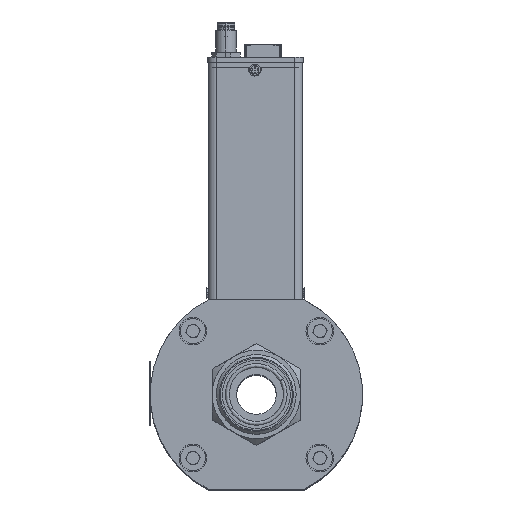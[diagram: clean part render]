
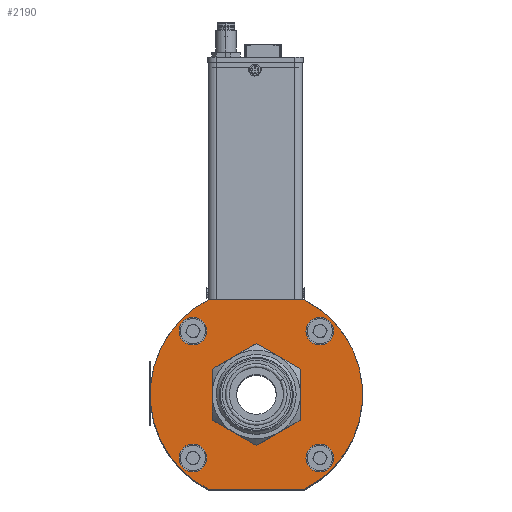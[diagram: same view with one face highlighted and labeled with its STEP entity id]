
A CAD part, top view. The second image highlights one B-rep face of the part: STEP entity #2190.
In plain terms, the highlighted planar face has unit normal (0, 0, 1).
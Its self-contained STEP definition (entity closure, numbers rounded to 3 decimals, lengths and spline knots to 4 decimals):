
#170 = ORIENTED_EDGE ( 'NONE', *, *, #10414, .T. ) ;
#992 = DIRECTION ( 'NONE',  ( 0., -1., 0. ) ) ;
#2164 = CARTESIAN_POINT ( 'NONE',  ( 0.0135, 0.8948, 0. ) ) ;
#2190 = ADVANCED_FACE ( 'NONE', ( #84334, #70914, #5049, #51882, #18500, #76977 ), #31450, .T. ) ;
#2309 = EDGE_CURVE ( 'NONE', #55389, #78996, #23865, .T. ) ;
#2507 = VERTEX_POINT ( 'NONE', #55711 ) ;
#3678 = CARTESIAN_POINT ( 'NONE',  ( 0.0135, 2.0444, 0. ) ) ;
#3734 = CIRCLE ( 'NONE', #52184, 0.5748 ) ;
#4625 = EDGE_LOOP ( 'NONE', ( #30481, #18380, #7725, #64608 ) ) ;
#4999 = AXIS2_PLACEMENT_3D ( 'NONE', #21944, #21509, #15449 ) ;
#5049 = FACE_BOUND ( 'NONE', #56756, .T. ) ;
#5235 = DIRECTION ( 'NONE',  ( 0., 0., -1. ) ) ;
#5251 = AXIS2_PLACEMENT_3D ( 'NONE', #40335, #27321, #54627 ) ;
#6642 = CARTESIAN_POINT ( 'NONE',  ( 1.0018, 2.4579, 0. ) ) ;
#7584 = CARTESIAN_POINT ( 'NONE',  ( 1.0018, 0.4813, 0. ) ) ;
#7725 = ORIENTED_EDGE ( 'NONE', *, *, #66474, .T. ) ;
#9186 = DIRECTION ( 'NONE',  ( 0., 1., 0. ) ) ;
#10414 = EDGE_CURVE ( 'NONE', #78996, #55389, #31902, .T. ) ;
#10735 = CARTESIAN_POINT ( 'NONE',  ( 0.7659, -0.0029, 0. ) ) ;
#12249 = ORIENTED_EDGE ( 'NONE', *, *, #41170, .T. ) ;
#13146 = CARTESIAN_POINT ( 'NONE',  ( 0.0135, 2.942, 0. ) ) ;
#13282 = AXIS2_PLACEMENT_3D ( 'NONE', #42993, #23052, #9186 ) ;
#13965 = ORIENTED_EDGE ( 'NONE', *, *, #34665, .T. ) ;
#13970 = ORIENTED_EDGE ( 'NONE', *, *, #44177, .T. ) ;
#13982 = AXIS2_PLACEMENT_3D ( 'NONE', #7584, #54382, #15367 ) ;
#14418 = CARTESIAN_POINT ( 'NONE',  ( 0.7659, 2.942, 0. ) ) ;
#14965 = CIRCLE ( 'NONE', #5251, 0.2165 ) ;
#15245 = ORIENTED_EDGE ( 'NONE', *, *, #55723, .T. ) ;
#15367 = DIRECTION ( 'NONE',  ( 0., -1., 0. ) ) ;
#15449 = DIRECTION ( 'NONE',  ( 0., -1., 0. ) ) ;
#16929 = VERTEX_POINT ( 'NONE', #29988 ) ;
#18380 = ORIENTED_EDGE ( 'NONE', *, *, #53472, .T. ) ;
#18500 = FACE_BOUND ( 'NONE', #35439, .T. ) ;
#18952 = CARTESIAN_POINT ( 'NONE',  ( -0.7389, -0.0029, 0. ) ) ;
#19277 = VERTEX_POINT ( 'NONE', #2164 ) ;
#19893 = AXIS2_PLACEMENT_3D ( 'NONE', #22715, #82052, #69886 ) ;
#20001 = EDGE_CURVE ( 'NONE', #39640, #30969, #62731, .T. ) ;
#20819 = CARTESIAN_POINT ( 'NONE',  ( 0.0135, 1.4696, 0. ) ) ;
#21066 = EDGE_LOOP ( 'NONE', ( #80124, #26624 ) ) ;
#21072 = VERTEX_POINT ( 'NONE', #14418 ) ;
#21509 = DIRECTION ( 'NONE',  ( 0., 0., -1. ) ) ;
#21944 = CARTESIAN_POINT ( 'NONE',  ( -0.9748, 2.4579, 0. ) ) ;
#22618 = CARTESIAN_POINT ( 'NONE',  ( -0.9748, 2.4579, 0. ) ) ;
#22715 = CARTESIAN_POINT ( 'NONE',  ( 1.0018, 0.4813, 0. ) ) ;
#23023 = DIRECTION ( 'NONE',  ( 0., 0., 1. ) ) ;
#23052 = DIRECTION ( 'NONE',  ( 0., 0., 1. ) ) ;
#23524 = VERTEX_POINT ( 'NONE', #66215 ) ;
#23865 = CIRCLE ( 'NONE', #36095, 0.2165 ) ;
#26624 = ORIENTED_EDGE ( 'NONE', *, *, #20001, .T. ) ;
#26835 = EDGE_CURVE ( 'NONE', #21072, #2507, #52591, .T. ) ;
#27321 = DIRECTION ( 'NONE',  ( 0., 0., -1. ) ) ;
#29783 = VERTEX_POINT ( 'NONE', #30217 ) ;
#29988 = CARTESIAN_POINT ( 'NONE',  ( 1.0018, 0.6978, 0. ) ) ;
#30021 = VERTEX_POINT ( 'NONE', #10735 ) ;
#30217 = CARTESIAN_POINT ( 'NONE',  ( 1.0018, 2.6744, 0. ) ) ;
#30481 = ORIENTED_EDGE ( 'NONE', *, *, #26835, .T. ) ;
#30969 = VERTEX_POINT ( 'NONE', #49657 ) ;
#31183 = DIRECTION ( 'NONE',  ( 0., -1., 0. ) ) ;
#31450 = PLANE ( 'NONE',  #76246 ) ;
#31902 = CIRCLE ( 'NONE', #80345, 0.2165 ) ;
#32012 = EDGE_LOOP ( 'NONE', ( #170, #36960 ) ) ;
#34665 = EDGE_CURVE ( 'NONE', #23524, #16929, #44814, .T. ) ;
#34729 = CIRCLE ( 'NONE', #13982, 0.2165 ) ;
#35439 = EDGE_LOOP ( 'NONE', ( #13965, #15245 ) ) ;
#36005 = DIRECTION ( 'NONE',  ( 0., -1., 0. ) ) ;
#36095 = AXIS2_PLACEMENT_3D ( 'NONE', #79557, #39292, #66982 ) ;
#36960 = ORIENTED_EDGE ( 'NONE', *, *, #2309, .T. ) ;
#37706 = DIRECTION ( 'NONE',  ( 0., 0., -1. ) ) ;
#37975 = DIRECTION ( 'NONE',  ( 0., 1., 0. ) ) ;
#38848 = VECTOR ( 'NONE', #65449, 39.3701 ) ;
#39031 = CARTESIAN_POINT ( 'NONE',  ( 0.0135, -0.0029, 0. ) ) ;
#39292 = DIRECTION ( 'NONE',  ( 0., 0., -1. ) ) ;
#39598 = CIRCLE ( 'NONE', #4999, 0.2165 ) ;
#39640 = VERTEX_POINT ( 'NONE', #52649 ) ;
#39988 = DIRECTION ( 'NONE',  ( -1., 0., 0. ) ) ;
#40335 = CARTESIAN_POINT ( 'NONE',  ( 1.0018, 2.4579, 0. ) ) ;
#41170 = EDGE_CURVE ( 'NONE', #29783, #81815, #14965, .T. ) ;
#41685 = DIRECTION ( 'NONE',  ( 0., 1., 0. ) ) ;
#42758 = AXIS2_PLACEMENT_3D ( 'NONE', #69371, #23023, #75441 ) ;
#42993 = CARTESIAN_POINT ( 'NONE',  ( 0.0135, 1.4696, 0. ) ) ;
#44076 = DIRECTION ( 'NONE',  ( 0., 0., 1. ) ) ;
#44177 = EDGE_CURVE ( 'NONE', #69970, #19277, #77288, .T. ) ;
#44514 = CARTESIAN_POINT ( 'NONE',  ( 0.0135, 1.4696, 0. ) ) ;
#44814 = CIRCLE ( 'NONE', #19893, 0.2165 ) ;
#48265 = AXIS2_PLACEMENT_3D ( 'NONE', #20819, #84978, #66314 ) ;
#49657 = CARTESIAN_POINT ( 'NONE',  ( -0.9748, 2.2413, 0. ) ) ;
#51882 = FACE_BOUND ( 'NONE', #21066, .T. ) ;
#52184 = AXIS2_PLACEMENT_3D ( 'NONE', #60331, #54698, #41685 ) ;
#52591 = LINE ( 'NONE', #13146, #68976 ) ;
#52649 = CARTESIAN_POINT ( 'NONE',  ( -0.9748, 2.6744, 0. ) ) ;
#53230 = CARTESIAN_POINT ( 'NONE',  ( -0.9748, 0.4813, 0. ) ) ;
#53472 = EDGE_CURVE ( 'NONE', #2507, #79428, #82466, .T. ) ;
#54382 = DIRECTION ( 'NONE',  ( 0., 0., -1. ) ) ;
#54627 = DIRECTION ( 'NONE',  ( 0., -1., 0. ) ) ;
#54698 = DIRECTION ( 'NONE',  ( 0., 0., -1. ) ) ;
#54825 = ORIENTED_EDGE ( 'NONE', *, *, #60799, .T. ) ;
#55389 = VERTEX_POINT ( 'NONE', #80039 ) ;
#55711 = CARTESIAN_POINT ( 'NONE',  ( -0.7389, 2.942, 0. ) ) ;
#55723 = EDGE_CURVE ( 'NONE', #16929, #23524, #34729, .T. ) ;
#55832 = AXIS2_PLACEMENT_3D ( 'NONE', #22618, #37706, #36005 ) ;
#56756 = EDGE_LOOP ( 'NONE', ( #63146, #12249 ) ) ;
#57349 = DIRECTION ( 'NONE',  ( 0., 0., -1. ) ) ;
#59384 = CIRCLE ( 'NONE', #66233, 0.2165 ) ;
#59423 = EDGE_LOOP ( 'NONE', ( #13970, #54825 ) ) ;
#60331 = CARTESIAN_POINT ( 'NONE',  ( 0.0135, 1.4696, 0. ) ) ;
#60799 = EDGE_CURVE ( 'NONE', #19277, #69970, #3734, .T. ) ;
#61633 = EDGE_CURVE ( 'NONE', #30969, #39640, #39598, .T. ) ;
#62731 = CIRCLE ( 'NONE', #55832, 0.2165 ) ;
#63146 = ORIENTED_EDGE ( 'NONE', *, *, #71051, .T. ) ;
#64579 = EDGE_CURVE ( 'NONE', #30021, #21072, #74590, .T. ) ;
#64608 = ORIENTED_EDGE ( 'NONE', *, *, #64579, .T. ) ;
#65449 = DIRECTION ( 'NONE',  ( 1., 0., 0. ) ) ;
#66215 = CARTESIAN_POINT ( 'NONE',  ( 1.0018, 0.2648, 0. ) ) ;
#66233 = AXIS2_PLACEMENT_3D ( 'NONE', #6642, #57349, #992 ) ;
#66314 = DIRECTION ( 'NONE',  ( 0., 1., 0. ) ) ;
#66474 = EDGE_CURVE ( 'NONE', #79428, #30021, #84962, .T. ) ;
#66982 = DIRECTION ( 'NONE',  ( 0., -1., 0. ) ) ;
#68976 = VECTOR ( 'NONE', #39988, 39.3701 ) ;
#69371 = CARTESIAN_POINT ( 'NONE',  ( 0.0135, 1.4696, 0. ) ) ;
#69886 = DIRECTION ( 'NONE',  ( 0., -1., 0. ) ) ;
#69970 = VERTEX_POINT ( 'NONE', #3678 ) ;
#70914 = FACE_BOUND ( 'NONE', #59423, .T. ) ;
#71051 = EDGE_CURVE ( 'NONE', #81815, #29783, #59384, .T. ) ;
#74559 = CARTESIAN_POINT ( 'NONE',  ( -0.9748, 0.2648, 0. ) ) ;
#74590 = CIRCLE ( 'NONE', #42758, 1.6535 ) ;
#75441 = DIRECTION ( 'NONE',  ( 0., 1., 0. ) ) ;
#76246 = AXIS2_PLACEMENT_3D ( 'NONE', #44514, #44076, #37975 ) ;
#76977 = FACE_BOUND ( 'NONE', #32012, .T. ) ;
#77288 = CIRCLE ( 'NONE', #48265, 0.5748 ) ;
#78996 = VERTEX_POINT ( 'NONE', #74559 ) ;
#79428 = VERTEX_POINT ( 'NONE', #18952 ) ;
#79557 = CARTESIAN_POINT ( 'NONE',  ( -0.9748, 0.4813, 0. ) ) ;
#80039 = CARTESIAN_POINT ( 'NONE',  ( -0.9748, 0.6978, 0. ) ) ;
#80124 = ORIENTED_EDGE ( 'NONE', *, *, #61633, .T. ) ;
#80345 = AXIS2_PLACEMENT_3D ( 'NONE', #53230, #5235, #31183 ) ;
#81312 = CARTESIAN_POINT ( 'NONE',  ( 1.0018, 2.2413, 0. ) ) ;
#81815 = VERTEX_POINT ( 'NONE', #81312 ) ;
#82052 = DIRECTION ( 'NONE',  ( 0., 0., -1. ) ) ;
#82466 = CIRCLE ( 'NONE', #13282, 1.6535 ) ;
#84334 = FACE_OUTER_BOUND ( 'NONE', #4625, .T. ) ;
#84962 = LINE ( 'NONE', #39031, #38848 ) ;
#84978 = DIRECTION ( 'NONE',  ( 0., 0., -1. ) ) ;
